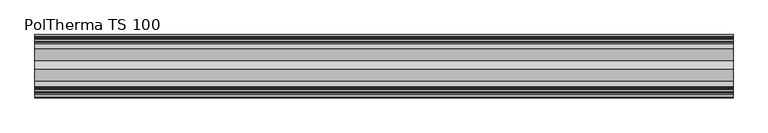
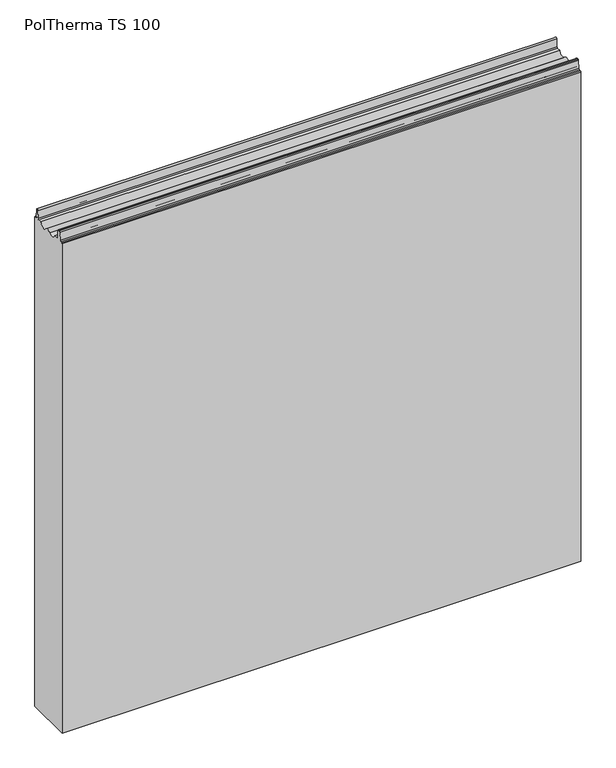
"""IFC4 building model written with IfcOpenShell, lengths in millimetres: plate geometry, Europanels_Poltherma TS_Hz : PolTherma TS 100."""

import ifcopenshell
import ifcopenshell.guid

model = None  # the IFC model being written
_history = None  # IfcOwnerHistory: only IFC2X3 demands one
_inside = {}  # id of a spatial element -> (the spatial element, [elements in it])
_under = {}  # id of a project, library or spatial element -> (it, [spatial elements below it])
_declared = {}  # id of a project -> (the project, [libraries it declares])
_typed = {}  # id of a type object -> (the type object, [elements of that type])
_made_of = {}  # id of a material, layer set ... -> (it, [elements and type objects made of it])


def new_model(schema):
    """Start an empty IFC model of exactly this schema.

    Asked for "IFC4X3", IfcOpenShell would pick the latest addendum, in which some entities
    have other attributes; the version numbers below select the first issue.
    IFC2X3 requires an IfcOwnerHistory on every rooted entity: one is made here for all.
    """
    global model, _history
    if schema == "IFC4X3":
        model = ifcopenshell.file(schema_version=(4, 3, 0, 0))
    else:
        model = ifcopenshell.file(schema=schema)
    _inside.clear()
    _under.clear()
    _declared.clear()
    _typed.clear()
    _made_of.clear()
    _history = None
    if model.schema == "IFC2X3":
        org = make("IfcOrganization", Name="unknown")
        user = make(
            "IfcPersonAndOrganization",
            ThePerson=make("IfcPerson", FamilyName="unknown"),
            TheOrganization=org,
        )
        app = make(
            "IfcApplication",
            ApplicationDeveloper=org,
            Version="unknown",
            ApplicationFullName="unknown",
            ApplicationIdentifier="unknown",
        )
        _history = make(
            "IfcOwnerHistory",
            OwningUser=user,
            OwningApplication=app,
            ChangeAction="ADDED",
            CreationDate=0,
        )
    return model


def make(cls, **values):
    """One entity of the class cls with the attributes given. An attribute that is None is left unset."""
    return model.create_entity(
        cls, **{name: value for name, value in values.items() if value is not None}
    )


def rooted(cls, **values):
    """An entity with a GlobalId (a new one), such as an element, a storey or a relation."""
    return make(cls, GlobalId=ifcopenshell.guid.new(), OwnerHistory=_history, **values)


def si_unit(unit_type, name, prefix=None):
    """IfcSIUnit, for example si_unit("LENGTHUNIT", "METRE", prefix="MILLI")."""
    return make("IfcSIUnit", UnitType=unit_type, Prefix=prefix, Name=name)


def assignment(units):
    """IfcUnitAssignment: the units of a project."""
    return None if units is None else make("IfcUnitAssignment", Units=units)


def point(xyz):
    """IfcCartesianPoint."""
    return None if xyz is None else make("IfcCartesianPoint", Coordinates=xyz)


def direction(xyz):
    """IfcDirection."""
    return None if xyz is None else make("IfcDirection", DirectionRatios=xyz)


def frame(location, z_axis=None, x_axis=None):
    """IfcAxis2Placement3D, a coordinate frame: its origin and axes. An axis left out is left unset."""
    return make(
        "IfcAxis2Placement3D",
        Location=point(location),
        Axis=direction(z_axis),
        RefDirection=direction(x_axis),
    )


def frame_2d(location, x_axis=None):
    """IfcAxis2Placement2D, a coordinate frame in the plane: its origin and x axis."""
    return make(
        "IfcAxis2Placement2D", Location=point(location), RefDirection=direction(x_axis)
    )


def origin():
    """The frame at (0, 0, 0) with its axes left unset."""
    return frame((0.0, 0.0, 0.0))


def place(relative_to, where):
    """IfcLocalPlacement: puts the frame where relative to a parent placement (None: the world)."""
    return make(
        "IfcLocalPlacement", PlacementRelTo=relative_to, RelativePlacement=where
    )


def context(
    kind, dimensions, precision=None, world=None, true_north=None, identifier=None
):
    """IfcGeometricRepresentationContext, for example the 3D "Model" context."""
    return make(
        "IfcGeometricRepresentationContext",
        ContextIdentifier=identifier,
        ContextType=kind,
        CoordinateSpaceDimension=dimensions,
        Precision=precision,
        WorldCoordinateSystem=world,
        TrueNorth=true_north,
    )


def project(units=None, contexts=None):
    """IfcProject with its units and contexts."""
    return rooted(
        "IfcProject",
        Name="project",
        RepresentationContexts=contexts,
        UnitsInContext=assignment(units),
    )


def spatial(cls, under=None, at=None, **own):
    """A site, building, storey or space (cls), placed at a placement, below another one or the project."""
    s = rooted(cls, ObjectPlacement=at, **own)
    if under is not None:
        _under.setdefault(under.id(), (under, []))[1].append(s)
    return s


def polyline(points):
    """IfcPolyline through the points."""
    return make("IfcPolyline", Points=[point(p) for p in points])


def circle_curve(where, radius):
    """IfcCircle in the frame where."""
    return make("IfcCircle", Position=where, Radius=radius)


def trimmed(basis, trim1, trim2, sense, master):
    """IfcTrimmedCurve: the piece of a basis curve between two trims."""
    return make(
        "IfcTrimmedCurve",
        BasisCurve=basis,
        Trim1=trim1,
        Trim2=trim2,
        SenseAgreement=sense,
        MasterRepresentation=master,
    )


def segment(curve, same_sense, transition):
    """IfcCompositeCurveSegment."""
    return make(
        "IfcCompositeCurveSegment",
        Transition=transition,
        SameSense=same_sense,
        ParentCurve=curve,
    )


def composite_curve(segments, self_intersect=None):
    """IfcCompositeCurve: segments joined end to end."""
    return make("IfcCompositeCurve", Segments=segments, SelfIntersect=self_intersect)


def outline(outer, holes=None, kind="AREA"):
    """IfcArbitraryClosedProfileDef: a profile drawn as a closed curve; with holes, ...WithVoids."""
    if holes is None:
        return make("IfcArbitraryClosedProfileDef", ProfileType=kind, OuterCurve=outer)
    return make(
        "IfcArbitraryProfileDefWithVoids",
        ProfileType=kind,
        OuterCurve=outer,
        InnerCurves=holes,
    )


def extrude(swept, where, along, depth):
    """IfcExtrudedAreaSolid: the profile swept, set in the frame where, extruded along a direction by depth."""
    return make(
        "IfcExtrudedAreaSolid",
        SweptArea=swept,
        Position=where,
        ExtrudedDirection=direction(along),
        Depth=depth,
    )


def shape(context_of_items, identifier, shape_type, items):
    """IfcShapeRepresentation: the items that make up one representation, for example the "Body"."""
    return make(
        "IfcShapeRepresentation",
        ContextOfItems=context_of_items,
        RepresentationIdentifier=identifier,
        RepresentationType=shape_type,
        Items=items,
    )


def source(mapping_origin, context_of_items, identifier, shape_type, items):
    """IfcRepresentationMap: a shape defined once, which mapped items show again and again."""
    return make(
        "IfcRepresentationMap",
        MappingOrigin=mapping_origin,
        MappedRepresentation=shape(context_of_items, identifier, shape_type, items),
    )


def transform(
    local_origin,
    x_axis=None,
    y_axis=None,
    z_axis=None,
    scale=None,
    scale2=None,
    scale3=None,
    uniform=True,
):
    """IfcCartesianTransformationOperator3D, or its non-uniform kind. x_axis, y_axis, z_axis: its Axis1, 2, 3."""
    if uniform:
        return make(
            "IfcCartesianTransformationOperator3D",
            Axis1=direction(x_axis),
            Axis2=direction(y_axis),
            LocalOrigin=point(local_origin),
            Scale=scale,
            Axis3=direction(z_axis),
        )
    return make(
        "IfcCartesianTransformationOperator3DnonUniform",
        Axis1=direction(x_axis),
        Axis2=direction(y_axis),
        LocalOrigin=point(local_origin),
        Scale=scale,
        Axis3=direction(z_axis),
        Scale2=scale2,
        Scale3=scale3,
    )


def mapped(mapping_source, mapping_target):
    """IfcMappedItem: shows the shape of a source again, moved by a transform."""
    return make(
        "IfcMappedItem", MappingSource=mapping_source, MappingTarget=mapping_target
    )


def made_of(thing, what):
    """Note that an element or type object is made of a material, layer set ...; save() writes the relation."""
    if what is not None:
        _made_of.setdefault(what.id(), (what, []))[1].append(thing)
    return thing


def element(
    cls,
    number,
    at=None,
    inside=None,
    cuts=None,
    type_object=None,
    material=None,
    context=None,
    identifier="Body",
    shape_type=None,
    held_by="IfcProductDefinitionShape",
    body=None,
    shapes=None,
    **own,
):
    """One element of the class cls, such as IfcWall. Its Tag is "e" and its number.

    at: its placement. inside: the storey or other place that contains it. cuts: it is an
    opening in that element (IfcRelVoidsElement). A single representation is given by context,
    identifier, shape_type and body (its items); several are given by shapes. held_by: the class
    of the entity that holds the representations. save() writes the other relations.
    """
    e = rooted(cls, Tag="e%d" % number, ObjectPlacement=at, **own)
    if body is not None:
        shapes = [shape(context, identifier, shape_type, body)]
    if shapes is not None:
        e.Representation = make(held_by, Representations=shapes)
    if inside is not None:
        _inside.setdefault(inside.id(), (inside, []))[1].append(e)
    if cuts is not None:
        rooted(
            "IfcRelVoidsElement", RelatingBuildingElement=cuts, RelatedOpeningElement=e
        )
    if type_object is not None:
        _typed.setdefault(type_object.id(), (type_object, []))[1].append(e)
    return made_of(e, material)


def aggregate(whole, parts):
    """IfcRelAggregates: a whole, such as a stair, and the parts it consists of."""
    return rooted("IfcRelAggregates", RelatingObject=whole, RelatedObjects=parts)


def save(model, path):
    """Write the relations noted so far, then the file.

    IfcRelAggregates (storeys below a building ...), IfcRelContainedInSpatialStructure (elements
    in a storey), IfcRelDefinesByType, IfcRelAssociatesMaterial and IfcRelDeclares: one each for
    every whole, place, type object, material and project.
    """
    for whole, parts in _under.values():
        aggregate(whole, parts)
    for where, things in _inside.values():
        rooted(
            "IfcRelContainedInSpatialStructure",
            RelatedElements=things,
            RelatingStructure=where,
        )
    for kind, things in _typed.values():
        rooted("IfcRelDefinesByType", RelatedObjects=things, RelatingType=kind)
    for what, things in _made_of.values():
        rooted("IfcRelAssociatesMaterial", RelatedObjects=things, RelatingMaterial=what)
    for by, libraries in _declared.values():
        rooted("IfcRelDeclares", RelatingContext=by, RelatedDefinitions=libraries)
    model.write(path)


def poltherma_ts_100_263237e6(model_context):
    return source(origin(), model_context, "Body", "SweptSolid", [
        extrude(outline(composite_curve([segment(trimmed(circle_curve(frame_2d((-48.0, 1096.5011047)), 2.0), [point((-50.0, 1096.5011047))], [point((-48.0, 1098.5011047))], False, "CARTESIAN"), True, "CONTINUOUS"), segment(polyline([(-48.0, 1098.5011047), (-44.244573, 1098.5011047)]), True, "CONTINUOUS"), segment(trimmed(circle_curve(frame_2d((-44.244573, 1100.5011047)), 2.0), [point((-44.244573, 1098.5011047))], [point((-42.2483736, 1100.3778643))], True, "CARTESIAN"), True, "CONTINUOUS"), segment(polyline([(-42.2483736, 1100.3778643), (-41.1836192, 1117.624345)]), True, "CONTINUOUS"), segment(trimmed(circle_curve(frame_2d((-39.1874198, 1117.5011047)), 2.0), [point((-41.1836192, 1117.624345))], [point((-39.1874198, 1119.5011047))], False, "CARTESIAN"), True, "CONTINUOUS"), segment(polyline([(-39.1874198, 1119.5011047), (-36.4480373, 1119.5011047)]), True, "CONTINUOUS"), segment(trimmed(circle_curve(frame_2d((-36.4480373, 1117.5011047)), 2.0), [point((-36.4480373, 1119.5011047))], [point((-34.4498501, 1117.5862394))], False, "CARTESIAN"), True, "CONTINUOUS"), segment(polyline([(-34.4498501, 1117.5862394), (-33.7101357, 1100.2244834)]), True, "CONTINUOUS"), segment(trimmed(circle_curve(frame_2d((-31.9117672, 1100.3011047)), 1.8), [point((-33.7101357, 1100.2244834))], [point((-31.9117672, 1098.5011047))], True, "CARTESIAN"), True, "CONTINUOUS"), segment(polyline([(-31.9117672, 1098.5011047), (-22.9234285, 1098.5011047)]), True, "CONTINUOUS"), segment(trimmed(circle_curve(frame_2d((-12.3, 1101.354658)), 11.0), [point((-22.9234285, 1098.5011047))], [point((-4.05, 1094.0788419))], True, "CARTESIAN"), True, "CONTINUOUS"), segment(trimmed(circle_curve(frame_2d((2.7, 1088.1259015)), 9.0), [point((-4.05, 1094.0788419))], [point((9.45, 1094.0788419))], False, "CARTESIAN"), True, "CONTINUOUS"), segment(trimmed(circle_curve(frame_2d((17.7, 1101.354658)), 11.0), [point((9.45, 1094.0788419))], [point((28.3234285, 1098.5011047))], True, "CARTESIAN"), True, "CONTINUOUS"), segment(polyline([(28.3234285, 1098.5011047), (36.113894, 1098.5011047)]), True, "CONTINUOUS"), segment(trimmed(circle_curve(frame_2d((36.113894, 1100.5011047)), 2.0), [point((36.113894, 1098.5011047))], [point((38.1120505, 1100.4152514))], True, "CARTESIAN"), True, "CONTINUOUS"), segment(polyline([(38.1120505, 1100.4152514), (38.8418822, 1117.4014159)]), True, "CONTINUOUS"), segment(trimmed(circle_curve(frame_2d((41.019533, 1117.3078504)), 2.1796599), [point((38.8418822, 1117.4014159))], [point((43.1949638, 1117.4435621))], False, "CARTESIAN"), True, "CONTINUOUS"), segment(polyline([(43.1949638, 1117.4435621), (44.2596673, 1100.3765791)]), True, "CONTINUOUS"), segment(trimmed(circle_curve(frame_2d((46.2557869, 1100.5011047)), 2.0), [point((44.2596673, 1100.3765791))], [point((46.2557869, 1098.5011047))], True, "CARTESIAN"), True, "CONTINUOUS"), segment(polyline([(46.2557869, 1098.5011047), (48.0, 1098.5011047)]), True, "CONTINUOUS"), segment(trimmed(circle_curve(frame_2d((48.0, 1096.5011047)), 2.0), [point((48.0, 1098.5011047))], [point((50.0, 1096.5011047))], False, "CARTESIAN"), True, "CONTINUOUS"), segment(polyline([(50.0, 1096.5011047), (50.0, 0.0), (-50.0, 0.0), (-50.0, 1096.5011047)]), True, "CONTINUOUS")], self_intersect=False)), frame((-550.0, 0.0, 0.0), z_axis=(1.0, 0.0, 0.0), x_axis=(0.0, 1.0, 0.0)), (0.0, 0.0, 1.0), 1100.0),
    ])


if __name__ == "__main__":
    model = new_model("IFC4")
    model_context = context("Model", 3, world=origin())
    ifc_project = project(units=[si_unit("LENGTHUNIT", "METRE", prefix="MILLI")], contexts=[model_context])
    site = spatial("IfcSite", under=ifc_project)
    building = spatial("IfcBuilding", under=site)
    placement = place(None, origin())
    poltherma_ts_100_shape = poltherma_ts_100_263237e6(model_context)
    element("IfcPlate", 1, ObjectType="Europanels_Poltherma TS_Hz : PolTherma TS 100", at=placement, inside=building, context=model_context, shape_type="MappedRepresentation", body=[
        mapped(poltherma_ts_100_shape, transform((0.0, 0.0, 0.0), x_axis=(1.0, 0.0, 0.0), y_axis=(0.0, 1.0, 0.0), z_axis=(0.0, 0.0, 1.0))),
    ])
    save(model, "model.ifc")
